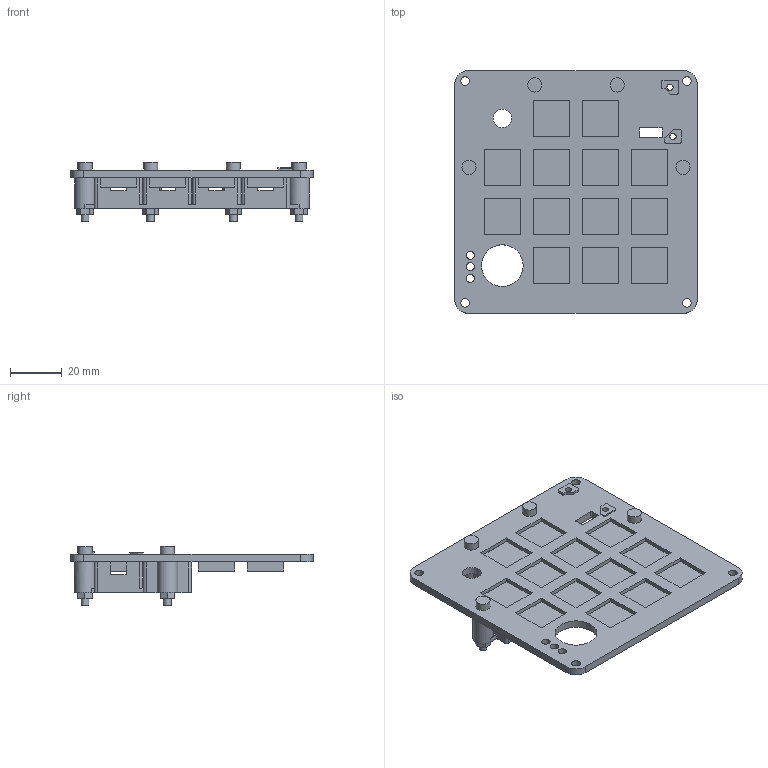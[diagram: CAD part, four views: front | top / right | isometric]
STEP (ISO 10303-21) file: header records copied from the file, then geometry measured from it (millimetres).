
FILE_DESCRIPTION(('Open CASCADE Model'),'2;1');
FILE_NAME('Open CASCADE Shape Model','2026-09-14T21:14:29',('Author'),( 'Open CASCADE'),'Open CASCADE STEP processor 7.9','Open CASCADE 7.9' ,'Unknown');
FILE_SCHEMA(('AUTOMOTIVE_DESIGN { 1 0 10303 214 1 1 1 1 }'));
Length unit declared in the file: millimetre
Products named in the file (30): TWO_LAYER_BAFFLE_V2_PHYSICAL_FIT_PENDING; PRINT_upper_plate; PRINT_lower_baffle_tray; BUY_M3x20_screw_0; BUY_M3_nut_0; BUY_M3x20_screw_1; BUY_M3_nut_1; BUY_M3x20_screw_2; BUY_M3_nut_2; BUY_M3x20_screw_3; BUY_M3_nut_3; REF_switch_envelope_0; REF_switch_envelope_1; REF_switch_envelope_2; REF_switch_envelope_3; REF_switch_envelope_4; REF_switch_envelope_5; REF_switch_envelope_6; REF_switch_envelope_7; REF_switch_envelope_8; REF_switch_envelope_9; REF_switch_envelope_10; REF_switch_envelope_11; REF_switch_envelope_12; REF_LED_envelope_0; REF_LED_envelope_1; REF_LED_envelope_2; REF_LED_envelope_3; REF_LED_envelope_4; REF_LED_envelope_5
Assembly tree (29 placements, depth 2):
  TWO_LAYER_BAFFLE_V2_PHYSICAL_FIT_PENDING
    PRINT_upper_plate
    PRINT_lower_baffle_tray
    BUY_M3x20_screw_0
    BUY_M3_nut_0
    BUY_M3x20_screw_1
    BUY_M3_nut_1
    BUY_M3x20_screw_2
    BUY_M3_nut_2
    BUY_M3x20_screw_3
    BUY_M3_nut_3
    REF_switch_envelope_0
    REF_switch_envelope_1
    REF_switch_envelope_2
    REF_switch_envelope_3
    REF_switch_envelope_4
    REF_switch_envelope_5
    REF_switch_envelope_6
    REF_switch_envelope_7
    REF_switch_envelope_8
    REF_switch_envelope_9
    REF_switch_envelope_10
    REF_switch_envelope_11
    REF_switch_envelope_12
    REF_LED_envelope_0
    REF_LED_envelope_1
    REF_LED_envelope_2
    REF_LED_envelope_3
    REF_LED_envelope_4
    REF_LED_envelope_5
Bounding box: 94 x 94 x 23 mm (x, y, z)
Volume: 41083.2 mm3; surface area: 42037.1 mm2
Topology: 29 solids, 29 shells, 672 faces, 1764 edges, 1176 vertices
Faces by surface type: plane 526, cylinder 146
Full cylindrical faces by diameter (mm): 2.4 x2, 3 x8, 3.2 x3, 3.4 x12, 5.5 x4, 7.2 x1, 8 x1, 16.2 x1
Entity records: 44116 total; most frequent: CARTESIAN_POINT 8487, DIRECTION 6275, LINE 4073, VECTOR 4073, ORIENTED_EDGE 3528, PCURVE 3528, DEFINITIONAL_REPRESENTATION 3528, EDGE_CURVE 1764
